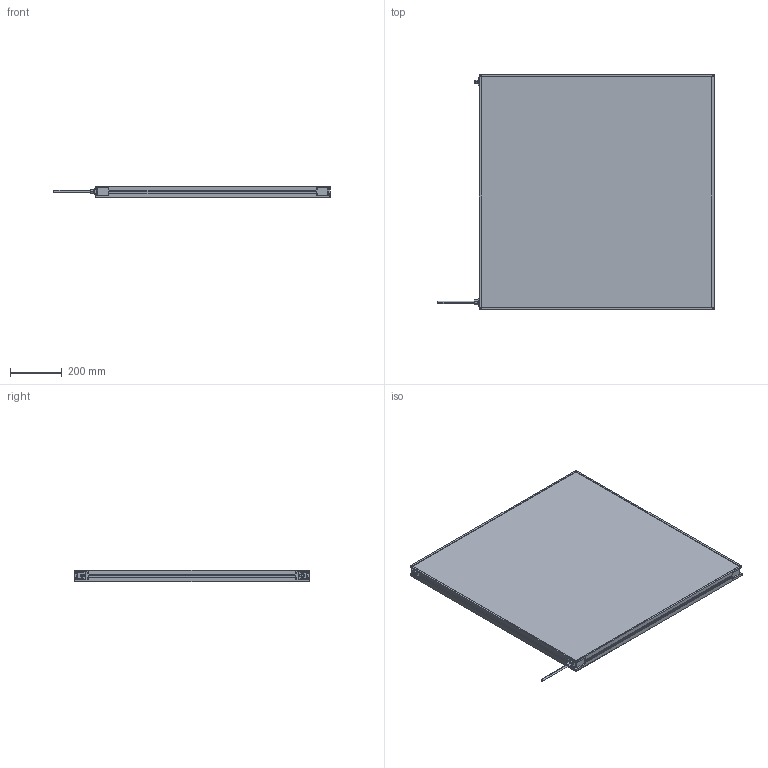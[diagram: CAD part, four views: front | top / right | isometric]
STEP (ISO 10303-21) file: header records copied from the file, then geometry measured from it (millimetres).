
FILE_DESCRIPTION (( 'STEP AP214' ), '1' );
FILE_NAME ('MBACK-xxxx-xxx-M1A2_CLIENT900x900.STEP', '2022-04-01T11:53:05', ( '' ), ( '' ), 'SwSTEP 2.0', 'SolidWorks 2020', '' );
FILE_SCHEMA (( 'AUTOMOTIVE_DESIGN' ));
Length unit declared in the file: millimetre
Products named in the file (1): MBACK-xxxx-xxx-M1A2_CLIENT900x900
Bounding box: 1067.4 x 908 x 45.5 mm (x, y, z)
Volume: 34372421 mm3; surface area: 1896125.3 mm2
Topology: 1 solids, 1 shells, 470 faces, 1210 edges, 804 vertices
Faces by surface type: plane 265, cylinder 117, bspline 80, cone 8
Entity records: 18046 total; most frequent: CARTESIAN_POINT 6837, ORIENTED_EDGE 2420, DIRECTION 2082, EDGE_CURVE 1210, VERTEX_POINT 804, LINE 800, VECTOR 800, AXIS2_PLACEMENT_3D 641
